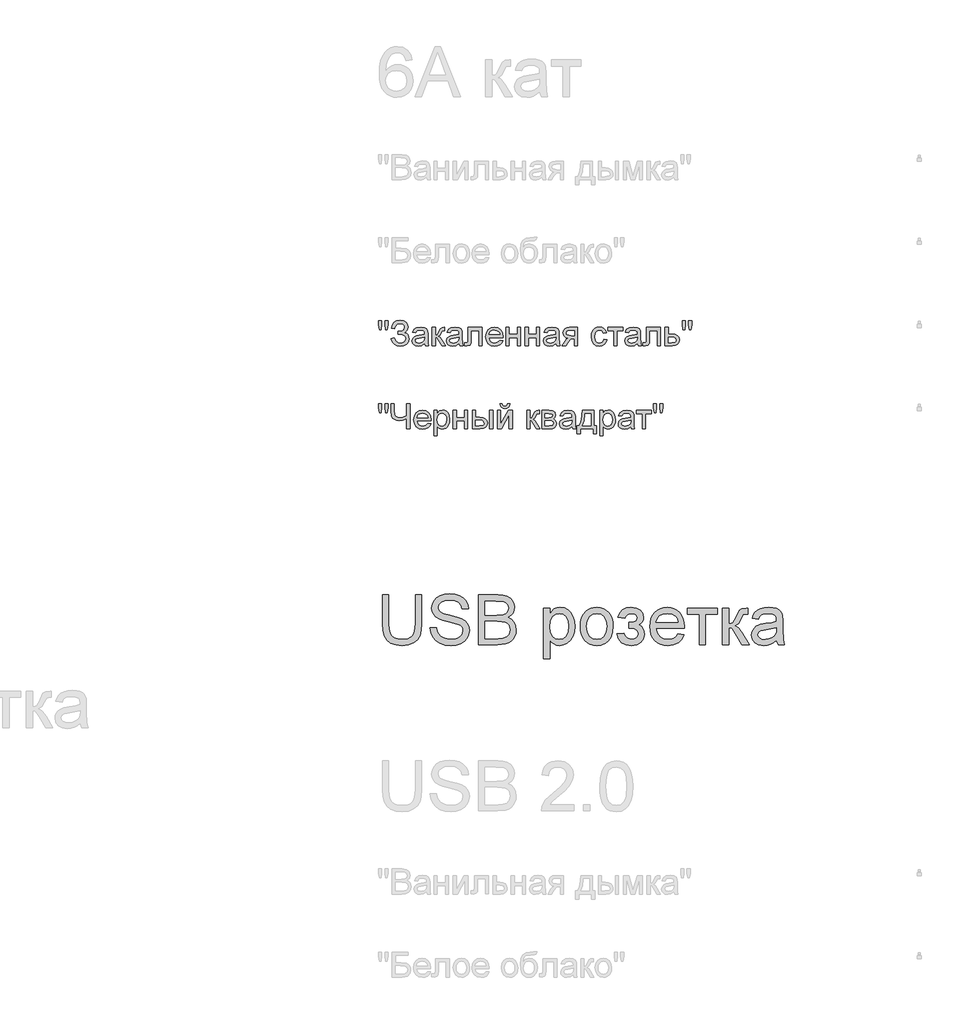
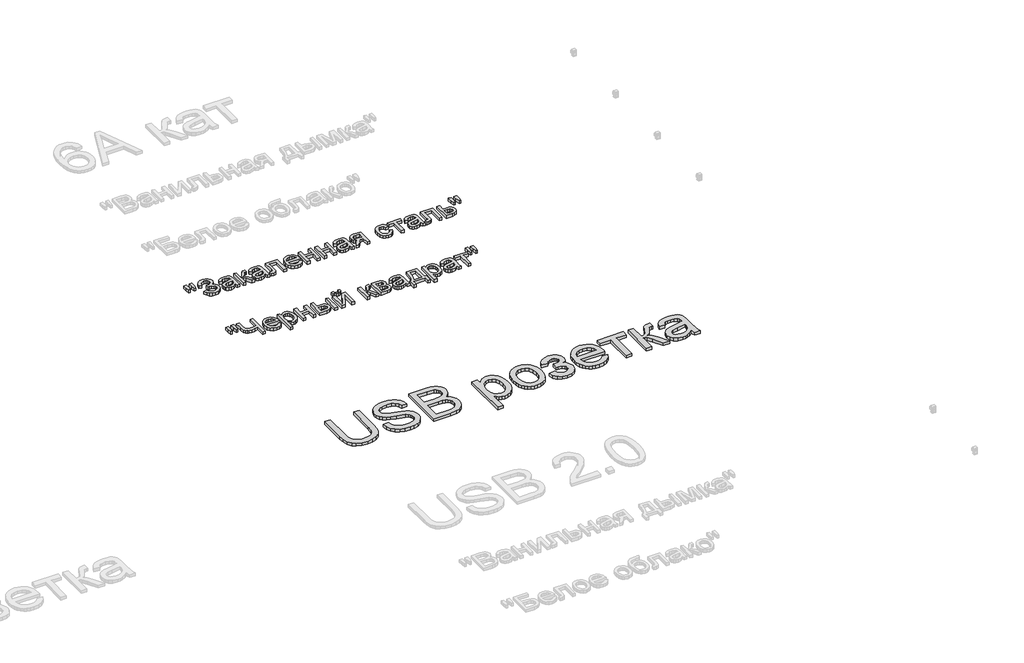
# One storey, part 60 of 168: 3 proxies.
"""IFC4 building model written with IfcOpenShell, lengths in millimetres."""

from ifc_helpers import new_model, si_unit, origin, origin_with_axes, place, context, project, spatial, polyline, outline, extrude, element, save

model = new_model("IFC4")

# Units and contexts
model_context = context("Model", 3, world=origin())
ifc_project = project(units=[si_unit("LENGTHUNIT", "METRE", prefix="MILLI")], contexts=[model_context])

# Site, building, storey
site = spatial("IfcSite", under=ifc_project)
building = spatial("IfcBuilding", under=site)
storey = spatial("IfcBuildingStorey", under=building, Name="Этаж 01", Elevation=0.0)

# Proxies
placement = place(None, origin())
element("IfcBuildingElementProxy", 1, Name="300 мм Arial 2", ObjectType="300 мм Arial 2", at=placement, inside=storey, context=model_context, shape_type="SweptSolid", body=[
    extrude(outline(polyline([(60396.8678623, -45765.4933673), (60434.5389786, -45765.4933673), (60434.5389786, -45939.3543982), (60431.9821987, -45980.069738), (60424.3118591, -46011.4224811), (60409.9828554, -46035.6107222), (60387.4500832, -46054.8325565), (60356.6583602, -46067.3865296), (60317.5525041, -46071.5711873), (60279.3019737, -46067.9291555), (60248.7217828, -46057.0030603), (60225.8027345, -46039.1699805), (60210.5356317, -46014.8069954), (60201.9547842, -45982.1298772), (60199.0945017, -45939.3543982), (60199.0945017, -45765.4933673), (60236.765618, -45765.4933673), (60236.765618, -45938.030023), (60238.623422, -45971.8843636), (60244.1968343, -45995.4564025), (60254.295195, -46011.781166), (60269.7278447, -46023.8936807), (60289.8509899, -46031.3984734), (60314.020837, -46033.900071), (60352.3357467, -46028.9520581), (60366.678546, -46022.7670421), (60377.8115749, -46014.1080196), (60386.1487006, -46001.9311256), (60392.1037904, -45985.1924948), (60396.8678623, -45938.030023), (60396.8678623, -45765.4933673)])), origin_with_axes(), (0.0, 0.0, 1.0), 20.0),
    extrude(outline(polyline([(60486.3367635, -45963.2667279), (60524.0078798, -45963.2667279), (60528.3304932, -45984.1716223), (60536.1479856, -46000.9746324), (60548.3432738, -46014.3103547), (60565.7992744, -46024.8133857), (60587.1364302, -46031.6283996), (60610.9751835, -46033.900071), (60631.9628513, -46032.1802226), (60650.3385569, -46027.0206777), (60665.2285807, -46018.8536974), (60675.7592028, -46008.1115431), (60682.0223938, -45995.7782992), (60684.1101241, -45982.83805), (60682.5466256, -45970.2288947), (60677.8561302, -45959.3303905), (60668.3279865, -45950.0321731), (60652.2515433, -45942.2238778), (60597.4003378, -45927.8396918), (60561.3938876, -45918.3207451), (60538.3552776, -45909.261651), (60519.6024929, -45896.5881163), (60506.3127558, -45881.229043), (60498.3940959, -45863.5155249), (60495.7545426, -45843.7786559), (60499.0194953, -45821.7149332), (60508.8143534, -45801.1411326), (60524.8815995, -45783.703526), (60546.9637163, -45771.0483854), (60573.469614, -45763.3504547), (60602.8082032, -45760.7844777), (60634.5932075, -45763.4700163), (60662.4050864, -45771.526632), (60685.2505583, -45784.7887779), (60702.1363419, -45803.0909072), (60712.8233138, -45825.2925856), (60717.0723509, -45850.253379), (60679.4012346, -45850.253379), (60672.4850531, -45827.7757891), (60658.0640788, -45811.5521931), (60635.5313066, -45801.7297438), (60604.2797311, -45798.4555941), (60572.2923917, -45801.6929556), (60550.3482307, -45811.4050403), (60537.6563018, -45825.6972558), (60533.4256589, -45842.6750099), (60536.4238971, -45857.1511664), (60545.4186119, -45868.7946315), (60566.6821912, -45879.205692), (60606.9284815, -45889.8374817), (60648.4623588, -45899.9358424), (60673.588699, -45908.7466162), (60695.0638105, -45922.4134323), (60710.0458048, -45939.2808218), (60718.8473815, -45959.1648436), (60721.7812404, -45981.8815568), (60718.4059231, -46005.1041078), (60708.2799712, -46026.9471013), (60691.8172519, -46045.7458712), (60669.4316325, -46059.8357516), (60642.5118675, -46068.6373284), (60612.4467114, -46071.5711873), (60575.5389503, -46068.4074021), (60545.1610945, -46058.9160466), (60520.9636563, -46043.0603326), (60502.5971477, -46020.8034719), (60490.8065297, -45993.6905689), (60486.3367635, -45963.2667279)])), origin_with_axes(), (0.0, 0.0, 1.0), 20.0),
    extrude(outline(polyline([(60778.2879149, -46066.8622977), (60778.2879149, -45765.4933673), (60893.2878266, -45765.4933673), (60924.9164811, -45767.7098563), (60949.61056, -45774.3593234), (60968.5380887, -45785.6073154), (60982.8670924, -45801.6193792), (60991.8893983, -45820.4549374), (60994.8968336, -45840.1734123), (60992.3676449, -45858.3191917), (60984.7800788, -45875.3797192), (60972.0789529, -45890.3065312), (60954.209085, -45902.0511639), (60975.5554377, -45913.1979883), (60991.3283783, -45930.1573483), (61001.0680541, -45951.8072037), (61004.3146127, -45977.0255145), (61002.0981237, -45998.0407735), (60995.4486566, -46017.5293222), (60985.5250398, -46034.1024061), (60973.4861015, -46046.3712706), (60958.7432305, -46055.2556208), (60940.7078157, -46061.6751616), (60892.4049098, -46066.8622977), (60778.2879149, -46066.8622977)]), holes=[polyline([(60815.9590312, -45887.9244953), (60884.7529643, -45887.9244953), (60924.9256781, -45884.6871337), (60938.9879674, -45879.1045244), (60949.0955252, -45870.7444061), (60955.1931693, -45859.7355374), (60957.2257173, -45846.206677), (60955.331125, -45833.0732898), (60949.6473482, -45821.6321597), (60940.4319042, -45812.7018243), (60927.9423105, -45807.1008209), (60879.5290399, -45803.1644836), (60815.9590312, -45803.1644836), (60815.9590312, -45887.9244953)]), polyline([(60815.9590312, -46029.1911814), (60893.2142502, -46029.1911814), (60921.1732818, -46027.7196534), (60944.8280941, -46019.515885), (60960.4998671, -46002.7772542), (60965.1075891, -45990.949848), (60966.6434964, -45977.3933965), (60964.8408746, -45961.6480471), (60959.4330093, -45948.1099897), (60949.9876391, -45937.5241853), (60936.0725026, -45930.6355949), (60916.3632247, -45926.8556074), (60889.5354302, -45925.5956116), (60815.9590312, -45925.5956116), (60815.9590312, -46029.1911814)])]), origin_with_axes(), (0.0, 0.0, 1.0), 20.0),
    extrude(outline(polyline([(61169.1257465, -46151.6223094), (61169.1257465, -45845.5444894), (61206.7968628, -45845.5444894), (61206.7968628, -45882.4798418), (61219.0841215, -45864.2604859), (61232.8429081, -45851.2466604), (61248.8825631, -45843.438365), (61268.0124268, -45840.8355999), (61293.488255, -45844.4776316), (61315.7635098, -45855.4037269), (61333.9000922, -45872.9516981), (61346.959903, -45896.4593576), (61354.8509718, -45924.2160541), (61357.4813281, -45954.5111364), (61354.510681, -45986.7284021), (61345.5987396, -46015.5427594), (61331.0306126, -46039.4918773), (61311.0914085, -46057.1134249), (61287.8688575, -46067.9567467), (61263.4506901, -46071.5711873), (61246.1326452, -46069.1523632), (61230.6724043, -46061.8958908), (61217.4378496, -46050.9422044), (61206.7968628, -46037.4317381), (61206.7968628, -46151.6223094), (61169.1257465, -46151.6223094)]), holes=[polyline([(61206.7968628, -45957.9692272), (61210.8711559, -45991.7407943), (61223.0940352, -46015.3588184), (61241.12945, -46029.2647578), (61262.6413497, -46033.900071), (61284.5027373, -46029.0992109), (61302.9980046, -46014.6966308), (61315.60716, -45990.214084), (61319.8102118, -45955.173324), (61315.7083275, -45921.5856978), (61303.4026748, -45897.63658), (61285.3948511, -45883.2891821), (61264.1864541, -45878.5067162), (61242.8952836, -45883.5926848), (61224.1976812, -45898.8505905), (61211.1470674, -45923.8021869), (61206.7968628, -45957.9692272)])]), origin_with_axes(), (0.0, 0.0, 1.0), 20.0),
    extrude(outline(polyline([(61390.4435548, -45956.2033936), (61392.4807014, -45927.5407876), (61398.592141, -45902.8421102), (61408.7778738, -45882.1073612), (61423.0378996, -45865.3365408), (61437.3944945, -45854.6173791), (61453.2410114, -45846.9608351), (61470.5774504, -45842.3669087), (61489.4038115, -45840.8355999), (61510.186845, -45842.7003018), (61528.9787172, -45848.2944073), (61545.779428, -45857.6179167), (61560.5889776, -45870.6708297), (61572.6762004, -45887.0116881), (61581.309931, -45906.1990334), (61586.4901693, -45928.2328656), (61588.2169154, -45953.1131848), (61585.1634949, -45991.1705772), (61576.0032332, -46020.1412843), (61561.0028449, -46041.837125), (61540.4290443, -46058.069918), (61515.9924827, -46068.19587), (61489.4038115, -46071.5711873), (61468.3172754, -46069.7133832), (61449.3506593, -46064.139971), (61432.5039632, -46054.8509506), (61417.7771871, -46041.8463221), (61405.818723, -46025.3468146), (61397.2769629, -46005.5731573), (61392.1519069, -45982.5253503), (61390.4435548, -45956.2033936)]), holes=[polyline([(61428.1146711, -45956.1298172), (61432.4740728, -45990.2232811), (61445.5522777, -46014.5126898), (61465.2339645, -46029.0532257), (61489.4038115, -46033.900071), (61513.463294, -46029.0256345), (61533.1081926, -46014.4023252), (61546.1863975, -45989.7910197), (61550.5457991, -45954.9525948), (61546.1588063, -45921.8524123), (61532.997828, -45897.8940973), (61513.3253383, -45883.3535615), (61489.4038115, -45878.5067162), (61465.2339645, -45883.3351674), (61445.5522777, -45897.820521), (61432.4740728, -45922.0547474), (61428.1146711, -45956.1298172)])]), origin_with_axes(), (0.0, 0.0, 1.0), 20.0),
    extrude(outline(polyline([(61682.3947062, -45967.9756174), (61682.3947062, -45930.3045011), (61712.1195714, -45928.8329731), (61727.1291568, -45920.9970866), (61732.4266576, -45913.6486438), (61734.1924911, -45904.6263379), (61731.8288493, -45893.9117748), (61724.7379239, -45885.6068387), (61713.9129961, -45880.2817468), (61700.3473476, -45878.5067162), (61686.6345462, -45880.2725498), (61675.1474309, -45885.5700505), (61665.8860017, -45894.3992184), (61658.8502585, -45906.7600534), (61616.4702527, -45902.0511639), (61627.7090476, -45875.2693546), (61644.7971663, -45856.1394909), (61667.7346087, -45844.6615726), (61696.5213748, -45840.8355999), (61728.0120736, -45845.4985042), (61751.8508269, -45859.4872171), (61766.8604123, -45879.950653), (61771.8636074, -45904.0377267), (61770.0839783, -45916.3985617), (61764.7450908, -45927.4350216), (61755.8469451, -45937.1471062), (61743.389541, -45945.5348157), (61757.9300769, -45956.0010585), (61768.2951521, -45969.005687), (61774.5031608, -45984.5854895), (61776.572497, -46002.7772542), (61771.3209815, -46030.5063596), (61755.5664351, -46052.4781117), (61730.3757154, -46066.7979184), (61696.8156804, -46071.5711873), (61663.9914094, -46067.1566033), (61638.8742662, -46053.9128515), (61621.4642508, -46031.8399318), (61611.7613631, -46000.9378442), (61654.141369, -45996.2289547), (61660.4873334, -46012.1582451), (61671.1375172, -46024.0408335), (61684.8595156, -46031.4352616), (61700.420924, -46033.900071), (61715.5776622, -46031.5364291), (61727.9384972, -46024.4455037), (61736.1606598, -46013.6757583), (61738.9013807, -46000.2756566), (61737.1999264, -45989.662261), (61732.0955638, -45980.4836053), (61717.6010131, -45969.8886038), (61689.7523461, -45967.7548882), (61682.3947062, -45967.9756174)])), origin_with_axes(), (0.0, 0.0, 1.0), 20.0),
    extrude(outline(polyline([(61978.6132887, -46000.9378442), (62015.548641, -46005.6467337), (62002.2405099, -46033.4770067), (61981.0045217, -46054.2807335), (61952.3189231, -46067.2485738), (61916.6619607, -46071.5711873), (61893.2876585, -46069.7064854), (61872.460939, -46064.1123798), (61854.1818024, -46054.7888705), (61838.4502486, -46041.7359575), (61825.7997065, -46025.3169242), (61816.7636049, -46005.8950541), (61811.341944, -45983.4703472), (61809.5347237, -45958.0428036), (61811.3603381, -45931.7530365), (61816.8371813, -45908.5810693), (61825.9652534, -45888.526902), (61838.7445542, -45871.5905347), (61854.4347213, -45858.1352507), (61872.2953921, -45848.5243336), (61892.3265668, -45842.7577833), (61914.5282452, -45840.8355999), (61936.0148529, -45842.7531848), (61955.4459201, -45848.5059395), (61972.8214466, -45858.093864), (61988.1414324, -45871.5169583), (62000.647121, -45888.4165374), (62009.5797557, -45908.4339165), (62014.9393365, -45931.5690955), (62016.7258634, -45957.8220744), (62016.5051342, -45967.9756174), (61847.20584, -45967.9756174), (61853.7265484, -45996.1737724), (61868.8740896, -46016.9039228), (61890.7354771, -46029.6510339), (61917.3977247, -46033.900071), (61937.4472935, -46031.9319023), (61954.333077, -46026.0273963), (61968.0550755, -46015.8186709), (61978.6132887, -46000.9378442)]), holes=[polyline([(61847.20584, -45930.3045011), (61979.0547471, -45930.3045011), (61973.9595815, -45910.4020852), (61963.9715853, -45896.165052), (61942.0090302, -45882.9213001), (61914.3810924, -45878.5067162), (61888.9880377, -45882.0291863), (61867.9911728, -45892.5965966), (61853.3954546, -45909.068513), (61847.20584, -45930.3045011)])]), origin_with_axes(), (0.0, 0.0, 1.0), 20.0),
    extrude(outline(polyline([(62035.5614216, -45845.5444894), (62214.499224, -45845.5444894), (62214.499224, -45883.2156057), (62143.865881, -45883.2156057), (62143.865881, -46066.8622977), (62106.1947647, -46066.8622977), (62106.1947647, -45883.2156057), (62035.5614216, -45883.2156057), (62035.5614216, -45845.5444894)])), origin_with_axes(), (0.0, 0.0, 1.0), 20.0),
    extrude(outline(polyline([(62247.4614508, -45845.5444894), (62285.1325671, -45845.5444894), (62285.1325671, -45939.7222802), (62300.4548522, -45938.030023), (62310.369272, -45932.9532515), (62319.1432576, -45919.7094997), (62331.0442401, -45893.5163016), (62348.2243293, -45859.4872171), (62363.3810675, -45848.413969), (62390.9354289, -45845.5444894), (62398.145916, -45845.5444894), (62398.145916, -45883.4363349), (62387.992373, -45883.2156057), (62369.5982732, -45887.1887313), (62356.648827, -45911.9839778), (62341.4553006, -45938.8025752), (62320.154933, -45951.9359624), (62332.0927038, -45957.2380617), (62343.9201099, -45966.5960599), (62367.2438284, -45997.4797534), (62407.5636951, -46066.8622977), (62364.7422309, -46066.8622977), (62325.2317046, -45998.9512814), (62305.3660768, -45970.2196976), (62296.0770565, -45965.0049703), (62285.1325671, -45963.2667279), (62285.1325671, -46066.8622977), (62247.4614508, -46066.8622977), (62247.4614508, -45845.5444894)])), origin_with_axes(), (0.0, 0.0, 1.0), 20.0),
    extrude(outline(polyline([(62572.3748289, -46038.6089605), (62554.3762023, -46054.0416102), (62535.8441468, -46064.139971), (62516.3555981, -46069.7133832), (62495.487492, -46071.5711873), (62464.0059902, -46067.101421), (62440.7834393, -46053.6921223), (62426.4636326, -46033.3298539), (62421.6903637, -46008.0011785), (62423.4929855, -45992.3845878), (62428.9008508, -45978.2027369), (62437.2425751, -45966.0626311), (62447.8467736, -45956.5712756), (62474.2239126, -45944.2104405), (62506.8182574, -45938.5450578), (62545.3355023, -45932.5853695), (62572.1540997, -45925.5956116), (62572.3748289, -45917.2079021), (62569.7812609, -45900.3956949), (62562.0005567, -45889.3960233), (62544.5997383, -45881.229043), (62520.3563148, -45878.5067162), (62497.9155131, -45880.318535), (62482.2437401, -45885.7539915), (62471.5567682, -45895.806367), (62464.0703696, -45911.468943), (62426.3992533, -45906.7600534), (62432.9383557, -45886.1586617), (62442.6964256, -45869.9718539), (62456.583971, -45857.5926248), (62475.5114996, -45848.413969), (62498.6604742, -45842.7301922), (62525.2123572, -45840.8355999), (62550.6789883, -45842.509463), (62570.8665128, -45847.5310522), (62586.0876303, -45855.0818302), (62596.6550406, -45864.3432594), (62603.6631926, -45875.7935865), (62608.2065353, -45889.9110581), (62610.0459452, -45922.8732848), (62610.0459452, -45969.741451), (62611.9589316, -46035.1876579), (62619.4637243, -46066.8622977), (62581.792608, -46066.8622977), (62572.3748289, -46038.6089605)]), holes=[polyline([(62572.3748289, -45963.2667279), (62511.6007233, -45974.8182225), (62479.1903196, -45980.9250637), (62464.511828, -45990.8578775), (62459.36148, -46005.3524281), (62462.1665802, -46016.5544349), (62470.5818809, -46025.7330907), (62484.4234409, -46031.8583259), (62503.5073194, -46033.900071), (62523.7408292, -46031.6467937), (62541.6198941, -46024.8869621), (62556.1144448, -46014.9265571), (62566.1944114, -46003.0715598), (62570.6641777, -45990.8578775), (62572.1540997, -45973.9353058), (62572.3748289, -45963.2667279)])]), origin_with_axes(), (0.0, 0.0, 1.0), 20.0),
])
element("IfcBuildingElementProxy", 2, Name="150", ObjectType="150", at=placement, inside=storey, context=model_context, shape_type="SweptSolid", body=[
    extrude(outline(polyline([(60180.1485789, -44170.3300622), (60175.550054, -44141.2305964), (60175.550054, -44116.1778325), (60194.3856121, -44116.1778325), (60194.3856121, -44141.2305964), (60190.2653338, -44170.3300622), (60180.1485789, -44170.3300622)])), origin_with_axes(), (0.0, 0.0, 1.0), 20.0),
    extrude(outline(polyline([(60217.7093306, -44170.3300622), (60213.2211703, -44141.2305964), (60213.2211703, -44116.1778325), (60232.0567284, -44116.1778325), (60232.0567284, -44141.2305964), (60227.6421445, -44170.3300622), (60217.7093306, -44170.3300622)])), origin_with_axes(), (0.0, 0.0, 1.0), 20.0),
    extrude(outline(polyline([(60250.8922866, -44224.4822919), (60269.7278447, -44219.7734024), (60281.2977335, -44240.172459), (60292.2284273, -44247.829003), (60306.2217387, -44250.3811843), (60320.398991, -44248.4635995), (60331.2193202, -44242.7108448), (60338.0757209, -44234.2449603), (60340.3611878, -44224.1879863), (60337.8641888, -44213.6527657), (60330.3731916, -44205.517975), (60318.5779752, -44200.3170433), (60303.1683181, -44198.5833994), (60293.2722924, -44198.5833994), (60293.2722924, -44179.7478413), (60314.591054, -44178.221131), (60327.6324708, -44170.4220327), (60333.2978535, -44156.1666054), (60331.4124583, -44147.2960508), (60325.7562726, -44139.6670979), (60316.8811195, -44134.4109839), (60305.3388219, -44132.6589459), (60286.1169876, -44138.0484171), (60275.117316, -44152.3406326), (60272.0822895, -44165.6211727), (60253.2467313, -44160.9122831), (60259.0983543, -44140.3108914), (60269.7002536, -44125.5956116), (60285.0524291, -44116.7664437), (60305.1548809, -44113.8233877), (60324.5468605, -44116.8814068), (60339.4598769, -44126.0554641), (60348.965028, -44139.3222085), (60352.1334117, -44154.6582892), (60347.2037929, -44173.3007093), (60332.4149367, -44187.2158458), (60342.8903765, -44192.0396984), (60351.5080123, -44200.1836861), (60357.2745625, -44210.948833), (60359.196746, -44223.6361633), (60355.508729, -44241.4738415), (60344.444678, -44256.1385376), (60327.2921799, -44265.9471913), (60305.3388219, -44269.2167425), (60286.2365493, -44266.4208393), (60270.7947025, -44258.0331298), (60259.0132816, -44244.053614), (60250.8922866, -44224.4822919)])), origin_with_axes(), (0.0, 0.0, 1.0), 20.0),
    extrude(outline(polyline([(60453.3745367, -44252.7356291), (60435.1091957, -44265.5011344), (60414.9308682, -44269.2167425), (60399.1901174, -44266.9818594), (60387.5788419, -44260.27721), (60380.4189386, -44250.0960758), (60378.0323041, -44237.4317381), (60381.6375477, -44222.5325173), (60391.110509, -44211.7167867), (60404.2990786, -44205.5363691), (60420.596251, -44202.7036778), (60453.2641721, -44196.2289547), (60453.3745367, -44192.0350999), (60452.0777527, -44183.6289963), (60448.1874006, -44178.1291605), (60439.4869914, -44174.0456704), (60427.3652797, -44172.684507), (60408.3089923, -44176.3081446), (60399.222307, -44189.1656204), (60380.3867489, -44186.8111756), (60388.5353351, -44168.4170758), (60404.9428721, -44157.6381334), (60429.7933008, -44153.8489488), (60452.6203786, -44157.196675), (60465.5146426, -44165.6027786), (60471.2903899, -44178.3866779), (60472.2100949, -44194.8677913), (60472.2100949, -44218.3018744), (60473.1665881, -44251.0249778), (60476.9189844, -44266.8622977), (60458.0834263, -44266.8622977), (60453.3745367, -44252.7356291)]), holes=[polyline([(60453.3745367, -44215.0645128), (60422.9874839, -44220.8402601), (60406.782282, -44223.8936807), (60399.4430362, -44228.8600876), (60396.8678623, -44236.1073629), (60402.4780627, -44246.2976942), (60418.940782, -44250.3811843), (60437.9970693, -44245.8746299), (60450.284328, -44234.9669288), (60453.2641721, -44220.3988017), (60453.3745367, -44215.0645128)])]), origin_with_axes(), (0.0, 0.0, 1.0), 20.0),
    extrude(outline(polyline([(60498.1089873, -44156.2033936), (60516.9445455, -44156.2033936), (60516.9445455, -44203.292289), (60529.5628979, -44199.9077746), (60539.900382, -44180.1892997), (60548.4904266, -44163.1747574), (60556.0687957, -44157.6381334), (60569.8459764, -44156.2033936), (60573.4512199, -44156.2033936), (60573.4512199, -44175.1493163), (60568.3744484, -44175.0389517), (60559.1773985, -44177.0255145), (60552.7026754, -44189.4231377), (60545.1059122, -44202.8324365), (60534.4557285, -44209.3991301), (60546.3383169, -44216.7291788), (60558.0001762, -44232.1710256), (60578.1601095, -44266.8622977), (60556.7493774, -44266.8622977), (60536.9941142, -44232.9067896), (60527.0613004, -44218.5409977), (60516.9445455, -44215.0645128), (60516.9445455, -44266.8622977), (60498.1089873, -44266.8622977), (60498.1089873, -44156.2033936)])), origin_with_axes(), (0.0, 0.0, 1.0), 20.0),
    extrude(outline(polyline([(60660.5656764, -44252.7356291), (60642.3003353, -44265.5011344), (60622.1220079, -44269.2167425), (60606.381257, -44266.9818594), (60594.7699816, -44260.27721), (60587.6100782, -44250.0960758), (60585.2234438, -44237.4317381), (60588.8286873, -44222.5325173), (60598.3016487, -44211.7167867), (60611.4902183, -44205.5363691), (60627.7873906, -44202.7036778), (60660.4553118, -44196.2289547), (60660.5656764, -44192.0350999), (60659.2688924, -44183.6289963), (60655.3785403, -44178.1291605), (60646.6781311, -44174.0456704), (60634.5564193, -44172.684507), (60615.500132, -44176.3081446), (60606.4134467, -44189.1656204), (60587.5778886, -44186.8111756), (60595.7264748, -44168.4170758), (60612.1340117, -44157.6381334), (60636.9844405, -44153.8489488), (60659.8115183, -44157.196675), (60672.7057822, -44165.6027786), (60678.4815296, -44178.3866779), (60679.4012346, -44194.8677913), (60679.4012346, -44218.3018744), (60680.3577277, -44251.0249778), (60684.1101241, -44266.8622977), (60665.2745659, -44266.8622977), (60660.5656764, -44252.7356291)]), holes=[polyline([(60660.5656764, -44215.0645128), (60630.1786236, -44220.8402601), (60613.9734217, -44223.8936807), (60606.6341759, -44228.8600876), (60604.0590019, -44236.1073629), (60609.6692024, -44246.2976942), (60626.1319217, -44250.3811843), (60645.188209, -44245.8746299), (60657.4754676, -44234.9669288), (60660.4553118, -44220.3988017), (60660.5656764, -44215.0645128)])]), origin_with_axes(), (0.0, 0.0, 1.0), 20.0),
    extrude(outline(polyline([(60714.7179061, -44156.2033936), (60799.4779178, -44156.2033936), (60799.4779178, -44266.7519331), (60780.6423596, -44266.7519331), (60780.6423596, -44175.0389517), (60733.5534643, -44175.0389517), (60733.5534643, -44227.830018), (60732.2842714, -44252.1838061), (60725.3129076, -44262.4661079), (60708.8317942, -44266.8622977), (60693.5279032, -44265.9058045), (60693.5279032, -44248.0267396), (60701.9524009, -44248.0267396), (60710.4688691, -44246.8679113), (60713.8717775, -44243.1890913), (60714.7179061, -44226.7631603), (60714.7179061, -44156.2033936)])), origin_with_axes(), (0.0, 0.0, 1.0), 20.0),
    extrude(outline(polyline([(60905.2072032, -44233.900071), (60923.6748794, -44236.2545157), (60917.0208138, -44250.1696522), (60906.4028197, -44260.5715156), (60892.0600204, -44267.0554358), (60874.2315392, -44269.2167425), (60852.1310283, -44265.4873388), (60835.1256831, -44254.2991276), (60824.2823613, -44236.3786759), (60820.6679207, -44212.4525506), (60824.3191495, -44187.7216835), (60835.2728359, -44169.2264162), (60852.0482549, -44157.6933157), (60873.1646814, -44153.8489488), (60893.6235189, -44157.6841186), (60909.971275, -44169.189628), (60920.6904367, -44187.6481071), (60924.2634906, -44212.342186), (60924.153126, -44217.4189576), (60839.5034789, -44217.4189576), (60842.763833, -44231.518035), (60850.3376036, -44241.8831103), (60861.2682974, -44248.2566658), (60874.5994212, -44250.3811843), (60893.0670974, -44246.444847), (60905.2072032, -44233.900071)]), holes=[polyline([(60839.5034789, -44198.5833994), (60905.4279324, -44198.5833994), (60902.8803496, -44188.6321915), (60897.8863515, -44181.5136749), (60886.9050739, -44174.8917989), (60873.091105, -44172.684507), (60860.3945777, -44174.445742), (60849.8961452, -44179.7294472), (60842.5982861, -44187.9654053), (60839.5034789, -44198.5833994)])]), origin_with_axes(), (0.0, 0.0, 1.0), 20.0),
    extrude(outline(polyline([(60943.0990487, -44156.2033936), (60961.9346069, -44156.2033936), (60961.9346069, -44198.5833994), (61011.377947, -44198.5833994), (61011.377947, -44156.2033936), (61030.2135052, -44156.2033936), (61030.2135052, -44266.8622977), (61011.377947, -44266.8622977), (61011.377947, -44217.4189576), (60961.9346069, -44217.4189576), (60961.9346069, -44266.8622977), (60943.0990487, -44266.8622977), (60943.0990487, -44156.2033936)])), origin_with_axes(), (0.0, 0.0, 1.0), 20.0),
    extrude(outline(polyline([(61058.4668424, -44156.2033936), (61077.3024005, -44156.2033936), (61077.3024005, -44198.5833994), (61126.7457407, -44198.5833994), (61126.7457407, -44156.2033936), (61145.5812988, -44156.2033936), (61145.5812988, -44266.8622977), (61126.7457407, -44266.8622977), (61126.7457407, -44217.4189576), (61077.3024005, -44217.4189576), (61077.3024005, -44266.8622977), (61058.4668424, -44266.8622977), (61058.4668424, -44156.2033936)])), origin_with_axes(), (0.0, 0.0, 1.0), 20.0),
    extrude(outline(polyline([(61244.4679792, -44252.7356291), (61226.2026381, -44265.5011344), (61206.0243107, -44269.2167425), (61190.2835598, -44266.9818594), (61178.6722843, -44260.27721), (61171.512381, -44250.0960758), (61169.1257465, -44237.4317381), (61172.7309901, -44222.5325173), (61182.2039515, -44211.7167867), (61195.392521, -44205.5363691), (61211.6896934, -44202.7036778), (61244.3576146, -44196.2289547), (61244.4679792, -44192.0350999), (61243.1711951, -44183.6289963), (61239.280843, -44178.1291605), (61230.5804338, -44174.0456704), (61218.4587221, -44172.684507), (61199.4024347, -44176.3081446), (61190.3157495, -44189.1656204), (61171.4801913, -44186.8111756), (61179.6287775, -44168.4170758), (61196.0363145, -44157.6381334), (61220.8867433, -44153.8489488), (61243.7138211, -44157.196675), (61256.608085, -44165.6027786), (61262.3838323, -44178.3866779), (61263.3035373, -44194.8677913), (61263.3035373, -44218.3018744), (61264.2600305, -44251.0249778), (61268.0124268, -44266.8622977), (61249.1768687, -44266.8622977), (61244.4679792, -44252.7356291)]), holes=[polyline([(61244.4679792, -44215.0645128), (61214.0809264, -44220.8402601), (61197.8757245, -44223.8936807), (61190.5364787, -44228.8600876), (61187.9613047, -44236.1073629), (61193.5715051, -44246.2976942), (61210.0342244, -44250.3811843), (61229.0905118, -44245.8746299), (61241.3777704, -44234.9669288), (61244.3576146, -44220.3988017), (61244.4679792, -44215.0645128)])]), origin_with_axes(), (0.0, 0.0, 1.0), 20.0),
    extrude(outline(polyline([(61373.9624415, -44156.2033936), (61373.9624415, -44266.8622977), (61355.1268833, -44266.8622977), (61355.1268833, -44224.4822919), (61344.8629756, -44224.4822919), (61330.8834598, -44226.8735249), (61317.7500726, -44242.949968), (61302.7404872, -44266.8622977), (61280.9618731, -44266.8622977), (61299.8710076, -44236.6223977), (61308.2219289, -44225.7698789), (61315.9106626, -44220.9506247), (61303.0347928, -44217.0050903), (61293.9848957, -44209.5094947), (61288.6322127, -44199.5398926), (61286.847985, -44188.172339), (61289.2852032, -44175.278075), (61296.5968579, -44165.0693497), (61308.5254316, -44158.4198826), (61324.8134069, -44156.2033936), (61373.9624415, -44156.2033936)]), holes=[polyline([(61355.1268833, -44175.0389517), (61330.2948486, -44175.0389517), (61317.4695626, -44176.1288021), (61310.1900976, -44179.3983534), (61305.6835431, -44189.6070787), (61307.3436107, -44196.7853762), (61312.3238132, -44201.7655787), (61335.8498668, -44205.6467337), (61355.1268833, -44205.6467337), (61355.1268833, -44175.0389517)])]), origin_with_axes(), (0.0, 0.0, 1.0), 20.0),
    extrude(outline(polyline([(61531.710241, -44226.8367367), (61550.5457991, -44229.1911814), (61545.2942837, -44245.9436078), (61535.4258491, -44258.6033469), (61521.8693976, -44266.5633936), (61505.5538311, -44269.2167425), (61485.518058, -44265.5149299), (61469.8508835, -44254.4094922), (61459.7387272, -44236.387873), (61456.3680084, -44211.9375159), (61457.8073467, -44195.1758924), (61462.1253616, -44180.6491522), (61469.391031, -44168.918315), (61479.6733328, -44160.5444011), (61491.974387, -44155.5228119), (61505.2963137, -44153.8489488), (61521.2118085, -44156.1482113), (61533.9359271, -44163.0459987), (61543.0639991, -44174.174429), (61548.1913544, -44189.1656204), (61529.3557962, -44191.5200651), (61520.6185988, -44177.4117906), (61505.4434665, -44172.684507), (61493.271171, -44175.0113606), (61483.6096701, -44181.9919214), (61477.3050924, -44194.0032686), (61475.2035665, -44211.4224811), (61477.2591072, -44229.0762183), (61483.4257291, -44241.1289522), (61492.9124861, -44248.0681263), (61504.9284317, -44250.3811843), (61514.6819031, -44248.9372475), (61522.678738, -44244.605437), (61528.4958721, -44237.2753883), (61531.710241, -44226.8367367)])), origin_with_axes(), (0.0, 0.0, 1.0), 20.0),
    extrude(outline(polyline([(61557.6091334, -44156.2033936), (61647.0780347, -44156.2033936), (61647.0780347, -44175.0389517), (61611.7613631, -44175.0389517), (61611.7613631, -44266.8622977), (61592.925805, -44266.8622977), (61592.925805, -44175.0389517), (61557.6091334, -44175.0389517), (61557.6091334, -44156.2033936)])), origin_with_axes(), (0.0, 0.0, 1.0), 20.0),
    extrude(outline(polyline([(61734.1924911, -44252.7356291), (61715.9271501, -44265.5011344), (61695.7488226, -44269.2167425), (61680.0080718, -44266.9818594), (61668.3967963, -44260.27721), (61661.236893, -44250.0960758), (61658.8502585, -44237.4317381), (61662.4555021, -44222.5325173), (61671.9284634, -44211.7167867), (61685.117033, -44205.5363691), (61701.4142054, -44202.7036778), (61734.0821265, -44196.2289547), (61734.1924911, -44192.0350999), (61732.8957071, -44183.6289963), (61729.005355, -44178.1291605), (61720.3049458, -44174.0456704), (61708.1832341, -44172.684507), (61689.1269467, -44176.3081446), (61680.0402614, -44189.1656204), (61661.2047033, -44186.8111756), (61669.3532895, -44168.4170758), (61685.7608265, -44157.6381334), (61710.6112552, -44153.8489488), (61733.438333, -44157.196675), (61746.332597, -44165.6027786), (61752.1083443, -44178.3866779), (61753.0280493, -44194.8677913), (61753.0280493, -44218.3018744), (61753.9845425, -44251.0249778), (61757.7369388, -44266.8622977), (61738.9013807, -44266.8622977), (61734.1924911, -44252.7356291)]), holes=[polyline([(61734.1924911, -44215.0645128), (61703.8054383, -44220.8402601), (61687.6002364, -44223.8936807), (61680.2609906, -44228.8600876), (61677.6858167, -44236.1073629), (61683.2960171, -44246.2976942), (61699.7587364, -44250.3811843), (61718.8150237, -44245.8746299), (61731.1022824, -44234.9669288), (61734.0821265, -44220.3988017), (61734.1924911, -44215.0645128)])]), origin_with_axes(), (0.0, 0.0, 1.0), 20.0),
    extrude(outline(polyline([(61788.3447208, -44156.2033936), (61873.1047325, -44156.2033936), (61873.1047325, -44266.7519331), (61854.2691744, -44266.7519331), (61854.2691744, -44175.0389517), (61807.180279, -44175.0389517), (61807.180279, -44227.830018), (61805.9110861, -44252.1838061), (61798.9397223, -44262.4661079), (61782.4586089, -44266.8622977), (61767.1547179, -44265.9058045), (61767.1547179, -44248.0267396), (61775.5792156, -44248.0267396), (61784.0956838, -44246.8679113), (61787.4985922, -44243.1890913), (61788.3447208, -44226.7631603), (61788.3447208, -44156.2033936)])), origin_with_axes(), (0.0, 0.0, 1.0), 20.0),
    extrude(outline(polyline([(61901.3580697, -44156.2033936), (61920.1936279, -44156.2033936), (61920.1936279, -44196.2289547), (61941.8986656, -44196.2289547), (61960.7158297, -44198.587998), (61974.6401632, -44205.6651278), (61983.2486019, -44216.8901272), (61986.1180814, -44231.692779), (61983.6762647, -44245.1710556), (61976.3508145, -44256.5432078), (61963.6542871, -44264.2825252), (61945.099239, -44266.8622977), (61901.3580697, -44266.8622977), (61901.3580697, -44156.2033936)]), holes=[polyline([(61920.1936279, -44248.0267396), (61937.7783873, -44248.0267396), (61960.4951005, -44244.0720081), (61965.5856676, -44239.0090322), (61967.2825233, -44231.7295672), (61962.260934, -44220.1412843), (61954.1905228, -44216.3337057), (61940.0224674, -44215.0645128), (61920.1936279, -44215.0645128), (61920.1936279, -44248.0267396)])]), origin_with_axes(), (0.0, 0.0, 1.0), 20.0),
    extrude(outline(polyline([(62009.5521645, -44170.3300622), (62004.9536396, -44141.2305964), (62004.9536396, -44116.1778325), (62023.7891977, -44116.1778325), (62023.7891977, -44141.2305964), (62019.6689194, -44170.3300622), (62009.5521645, -44170.3300622)])), origin_with_axes(), (0.0, 0.0, 1.0), 20.0),
    extrude(outline(polyline([(62047.1129162, -44170.3300622), (62042.6247559, -44141.2305964), (62042.6247559, -44116.1778325), (62061.460314, -44116.1778325), (62061.460314, -44141.2305964), (62057.0457301, -44170.3300622), (62047.1129162, -44170.3300622)])), origin_with_axes(), (0.0, 0.0, 1.0), 20.0),
])
element("IfcBuildingElementProxy", 3, Name="150", ObjectType="150", at=placement, inside=storey, context=model_context, shape_type="SweptSolid", body=[
    extrude(outline(polyline([(60180.1485789, -44670.3300622), (60175.550054, -44641.2305964), (60175.550054, -44616.1778325), (60194.3856121, -44616.1778325), (60194.3856121, -44641.2305964), (60190.2653338, -44670.3300622), (60180.1485789, -44670.3300622)])), origin_with_axes(), (0.0, 0.0, 1.0), 20.0),
    extrude(outline(polyline([(60217.7093306, -44670.3300622), (60213.2211703, -44641.2305964), (60213.2211703, -44616.1778325), (60232.0567284, -44616.1778325), (60232.0567284, -44641.2305964), (60227.6421445, -44670.3300622), (60217.7093306, -44670.3300622)])), origin_with_axes(), (0.0, 0.0, 1.0), 20.0),
    extrude(outline(polyline([(60363.9056355, -44766.8622977), (60345.0700773, -44766.8622977), (60345.0700773, -44706.5296505), (60320.0908899, -44714.6966308), (60298.4226404, -44717.4189576), (60283.7395502, -44715.556555), (60270.886673, -44709.9693472), (60260.926268, -44701.5172583), (60254.9205944, -44691.0602126), (60250.8922866, -44661.0594359), (60250.8922866, -44616.1778325), (60269.7278447, -44616.1778325), (60269.7278447, -44658.5210502), (60271.990319, -44678.8879171), (60278.7777418, -44690.8394834), (60288.7381468, -44696.6474204), (60300.5195677, -44698.5833994), (60322.2521966, -44696.2473488), (60345.0700773, -44689.2391968), (60345.0700773, -44616.1778325), (60363.9056355, -44616.1778325), (60363.9056355, -44766.8622977)])), origin_with_axes(), (0.0, 0.0, 1.0), 20.0),
    extrude(outline(polyline([(60471.9893657, -44733.900071), (60490.4570418, -44736.2545157), (60483.8029762, -44750.1696522), (60473.1849822, -44760.5715156), (60458.8421829, -44767.0554358), (60441.0137017, -44769.2167425), (60418.9131908, -44765.4873388), (60401.9078456, -44754.2991276), (60391.0645238, -44736.3786759), (60387.4500832, -44712.4525506), (60391.101312, -44687.7216835), (60402.0549984, -44669.2264162), (60418.8304174, -44657.6933157), (60439.9468439, -44653.8489488), (60460.4056814, -44657.6841186), (60476.7534375, -44669.189628), (60487.4725992, -44687.6481071), (60491.045653, -44712.342186), (60490.9352884, -44717.4189576), (60406.2856413, -44717.4189576), (60409.5459955, -44731.518035), (60417.1197661, -44741.8831103), (60428.0504599, -44748.2566658), (60441.3815837, -44750.3811843), (60459.8492598, -44746.444847), (60471.9893657, -44733.900071)]), holes=[polyline([(60406.2856413, -44698.5833994), (60472.2100949, -44698.5833994), (60469.6625121, -44688.6321915), (60464.668514, -44681.5136749), (60453.6872364, -44674.8917989), (60439.8732675, -44672.684507), (60427.1767401, -44674.445742), (60416.6783077, -44679.7294472), (60409.3804486, -44687.9654053), (60406.2856413, -44698.5833994)])]), origin_with_axes(), (0.0, 0.0, 1.0), 20.0),
    extrude(outline(polyline([(60509.8812112, -44809.2423036), (60509.8812112, -44656.2033936), (60528.7167693, -44656.2033936), (60528.7167693, -44674.6710697), (60541.739792, -44659.054479), (60559.3245513, -44653.8489488), (60572.0624654, -44655.6699647), (60583.2000928, -44661.1330123), (60592.268384, -44669.9069979), (60598.7982894, -44681.6608277), (60604.0590019, -44710.6867171), (60602.5736784, -44726.7953499), (60598.1177077, -44741.2025286), (60590.8336442, -44753.1770875), (60580.8640422, -44761.9878613), (60569.2527667, -44767.4095222), (60557.043683, -44769.2167425), (60540.6545401, -44764.3790943), (60528.7167693, -44752.1470179), (60528.7167693, -44809.2423036), (60509.8812112, -44809.2423036)]), holes=[polyline([(60528.7167693, -44712.4157624), (60530.7539159, -44729.301546), (60536.8653555, -44741.1105581), (60545.8830629, -44748.0635278), (60556.6390128, -44750.3811843), (60567.5697066, -44747.9807543), (60576.8173402, -44740.7794643), (60583.1219179, -44728.5381909), (60585.2234438, -44711.0178109), (60583.1725017, -44694.2239978), (60577.0196753, -44682.2494388), (60568.0157635, -44675.0757399), (60557.411565, -44672.684507), (60546.7659797, -44675.2274913), (60537.4171785, -44682.8564441), (60530.8918716, -44695.3322423), (60528.7167693, -44712.4157624)])]), origin_with_axes(), (0.0, 0.0, 1.0), 20.0),
    extrude(outline(polyline([(60625.2490049, -44656.2033936), (60644.084563, -44656.2033936), (60644.084563, -44698.5833994), (60693.5279032, -44698.5833994), (60693.5279032, -44656.2033936), (60712.3634613, -44656.2033936), (60712.3634613, -44766.8622977), (60693.5279032, -44766.8622977), (60693.5279032, -44717.4189576), (60644.084563, -44717.4189576), (60644.084563, -44766.8622977), (60625.2490049, -44766.8622977), (60625.2490049, -44656.2033936)])), origin_with_axes(), (0.0, 0.0, 1.0), 20.0),
    extrude(outline(polyline([(60844.2123684, -44656.2033936), (60863.0479266, -44656.2033936), (60863.0479266, -44766.8622977), (60844.2123684, -44766.8622977), (60844.2123684, -44656.2033936)])), origin_with_axes(), (0.0, 0.0, 1.0), 20.0),
    extrude(outline(polyline([(60740.6167986, -44656.2033936), (60759.4523567, -44656.2033936), (60759.4523567, -44696.2289547), (60782.739287, -44696.2289547), (60802.8670307, -44698.587998), (60817.780047, -44705.6651278), (60827.0092866, -44716.8901272), (60830.0856998, -44731.692779), (60827.5059273, -44745.1710556), (60819.7666098, -44756.5432078), (60806.3619096, -44764.2825252), (60786.785989, -44766.8622977), (60740.6167986, -44766.8622977), (60740.6167986, -44656.2033936)]), holes=[polyline([(60759.4523567, -44748.0267396), (60778.8029497, -44748.0267396), (60803.7821371, -44744.0720081), (60809.3831405, -44739.0090322), (60811.2501416, -44731.7295672), (60805.7135176, -44720.1412843), (60796.8337659, -44716.3337057), (60781.267759, -44715.0645128), (60759.4523567, -44715.0645128), (60759.4523567, -44748.0267396)])]), origin_with_axes(), (0.0, 0.0, 1.0), 20.0),
    extrude(outline(polyline([(60891.3012638, -44656.2033936), (60910.1368219, -44656.2033936), (60910.1368219, -44740.5955233), (60956.4163769, -44656.2033936), (60980.770165, -44656.2033936), (60980.770165, -44766.8622977), (60961.9346069, -44766.8622977), (60961.9346069, -44682.9852028), (60915.9493575, -44766.8622977), (60891.3012638, -44766.8622977), (60891.3012638, -44656.2033936)])), origin_with_axes(), (0.0, 0.0, 1.0), 20.0),
    extrude(outline(polyline([(60952.5168278, -44616.1778325), (60966.6434964, -44616.1778325), (60963.6038714, -44628.2397634), (60957.5016288, -44637.1287121), (60948.6126801, -44642.6055553), (60937.2129368, -44644.4311697), (60924.8429047, -44642.6193509), (60915.2503817, -44637.1838944), (60908.6928851, -44628.3087413), (60905.4279324, -44616.1778325), (60919.554601, -44616.1778325), (60924.8521017, -44626.7912281), (60935.5206796, -44630.3045011), (60947.219327, -44626.9015927), (60952.5168278, -44616.1778325)])), origin_with_axes(), (0.0, 0.0, 1.0), 20.0),
    extrude(outline(polyline([(61067.8846215, -44656.2033936), (61086.7201796, -44656.2033936), (61086.7201796, -44703.292289), (61099.3385321, -44699.9077746), (61109.6760161, -44680.1892997), (61118.2660607, -44663.1747574), (61125.8444298, -44657.6381334), (61139.6216105, -44656.2033936), (61143.2268541, -44656.2033936), (61143.2268541, -44675.1493163), (61138.1500825, -44675.0389517), (61128.9530327, -44677.0255145), (61122.4783096, -44689.4231377), (61114.8815464, -44702.8324365), (61104.2313626, -44709.3991301), (61116.113951, -44716.7291788), (61127.7758103, -44732.1710256), (61147.9357436, -44766.8622977), (61126.5250115, -44766.8622977), (61106.7697484, -44732.9067896), (61096.8369345, -44718.5409977), (61086.7201796, -44715.0645128), (61086.7201796, -44766.8622977), (61067.8846215, -44766.8622977), (61067.8846215, -44656.2033936)])), origin_with_axes(), (0.0, 0.0, 1.0), 20.0),
    extrude(outline(polyline([(61159.7079675, -44656.2033936), (61201.2050565, -44656.2033936), (61223.9585579, -44658.7233853), (61236.7608514, -44667.9572233), (61242.1135344, -44684.0520606), (61238.8761728, -44697.1302655), (61229.1273, -44706.4560741), (61241.7824406, -44716.6647995), (61246.8224239, -44734.4151058), (61243.6310476, -44748.7717006), (61236.0434815, -44758.8792584), (61224.0321343, -44764.8665379), (61207.569415, -44766.8622977), (61159.7079675, -44766.8622977), (61159.7079675, -44656.2033936)]), holes=[polyline([(61178.5435256, -44698.5833994), (61197.1583546, -44698.5833994), (61212.5174279, -44697.6269062), (61219.9854324, -44693.8009335), (61223.2779762, -44686.884752), (61221.8340394, -44681.2653545), (61217.5022289, -44677.6509139), (61197.7469658, -44675.0389517), (61178.5435256, -44675.0389517), (61178.5435256, -44698.5833994)]), polyline([(61178.5435256, -44748.0267396), (61201.6465149, -44748.0267396), (61222.137542, -44744.6238311), (61226.377382, -44739.9839195), (61227.9868658, -44732.8700014), (61224.7678983, -44723.8017102), (61216.3801888, -44718.5226036), (61199.8071049, -44717.4189576), (61178.5435256, -44717.4189576), (61178.5435256, -44748.0267396)])]), origin_with_axes(), (0.0, 0.0, 1.0), 20.0),
    extrude(outline(polyline([(61341.0002147, -44752.7356291), (61322.7348736, -44765.5011344), (61302.5565462, -44769.2167425), (61286.8157953, -44766.9818594), (61275.2045198, -44760.27721), (61268.0446165, -44750.0960758), (61265.6579821, -44737.4317381), (61269.2632256, -44722.5325173), (61278.736187, -44711.7167867), (61291.9247565, -44705.5363691), (61308.2219289, -44702.7036778), (61340.8898501, -44696.2289547), (61341.0002147, -44692.0350999), (61339.7034307, -44683.6289963), (61335.8130786, -44678.1291605), (61327.1126694, -44674.0456704), (61314.9909576, -44672.684507), (61295.9346703, -44676.3081446), (61286.847985, -44689.1656204), (61268.0124268, -44686.8111756), (61276.161013, -44668.4170758), (61292.56855, -44657.6381334), (61317.4189788, -44653.8489488), (61340.2460566, -44657.196675), (61353.1403205, -44665.6027786), (61358.9160679, -44678.3866779), (61359.8357728, -44694.8677913), (61359.8357728, -44718.3018744), (61360.792266, -44751.0249778), (61364.5446624, -44766.8622977), (61345.7091042, -44766.8622977), (61341.0002147, -44752.7356291)]), holes=[polyline([(61341.0002147, -44715.0645128), (61310.6131619, -44720.8402601), (61294.40796, -44723.8936807), (61287.0687142, -44728.8600876), (61284.4935402, -44736.1073629), (61290.1037407, -44746.2976942), (61306.5664599, -44750.3811843), (61325.6227473, -44745.8746299), (61337.9100059, -44734.9669288), (61340.8898501, -44720.3988017), (61341.0002147, -44715.0645128)])]), origin_with_axes(), (0.0, 0.0, 1.0), 20.0),
    extrude(outline(polyline([(61402.2157787, -44656.2033936), (61472.8491218, -44656.2033936), (61472.8491218, -44748.0267396), (61486.9757904, -44748.0267396), (61486.9757904, -44797.4700797), (61468.1402322, -44797.4700797), (61468.1402322, -44766.8622977), (61390.4435548, -44766.8622977), (61390.4435548, -44797.4700797), (61371.6079967, -44797.4700797), (61371.6079967, -44748.0267396), (61383.3802205, -44748.0267396), (61391.9380754, -44732.5619002), (61397.9299534, -44712.1030628), (61402.2157787, -44656.2033936)]), holes=[polyline([(61418.6968921, -44675.0389517), (61414.2823081, -44717.9523865), (61404.5702235, -44748.0267396), (61454.0135636, -44748.0267396), (61454.0135636, -44675.0389517), (61418.6968921, -44675.0389517)])]), origin_with_axes(), (0.0, 0.0, 1.0), 20.0),
    extrude(outline(polyline([(61508.1657933, -44809.2423036), (61508.1657933, -44656.2033936), (61527.0013514, -44656.2033936), (61527.0013514, -44674.6710697), (61540.0243741, -44659.054479), (61557.6091334, -44653.8489488), (61570.3470475, -44655.6699647), (61581.4846749, -44661.1330123), (61590.5529661, -44669.9069979), (61597.0828715, -44681.6608277), (61602.3435841, -44710.6867171), (61600.8582605, -44726.7953499), (61596.4022898, -44741.2025286), (61589.1182263, -44753.1770875), (61579.1486243, -44761.9878613), (61567.5373488, -44767.4095222), (61555.3282651, -44769.2167425), (61538.9391222, -44764.3790943), (61527.0013514, -44752.1470179), (61527.0013514, -44809.2423036), (61508.1657933, -44809.2423036)]), holes=[polyline([(61527.0013514, -44712.4157624), (61529.038498, -44729.301546), (61535.1499376, -44741.1105581), (61544.167645, -44748.0635278), (61554.9235949, -44750.3811843), (61565.8542887, -44747.9807543), (61575.1019223, -44740.7794643), (61581.4065, -44728.5381909), (61583.5080259, -44711.0178109), (61581.4570838, -44694.2239978), (61575.3042574, -44682.2494388), (61566.3003456, -44675.0757399), (61555.6961471, -44672.684507), (61545.0505618, -44675.2274913), (61535.7017606, -44682.8564441), (61529.1764537, -44695.3322423), (61527.0013514, -44712.4157624)])]), origin_with_axes(), (0.0, 0.0, 1.0), 20.0),
    extrude(outline(polyline([(61694.1669301, -44752.7356291), (61675.901589, -44765.5011344), (61655.7232616, -44769.2167425), (61639.9825107, -44766.9818594), (61628.3712352, -44760.27721), (61621.2113319, -44750.0960758), (61618.8246974, -44737.4317381), (61622.429941, -44722.5325173), (61631.9029024, -44711.7167867), (61645.0914719, -44705.5363691), (61661.3886443, -44702.7036778), (61694.0565655, -44696.2289547), (61694.1669301, -44692.0350999), (61692.870146, -44683.6289963), (61688.9797939, -44678.1291605), (61680.2793847, -44674.0456704), (61668.157673, -44672.684507), (61649.1013856, -44676.3081446), (61640.0147004, -44689.1656204), (61621.1791422, -44686.8111756), (61629.3277284, -44668.4170758), (61645.7352654, -44657.6381334), (61670.5856942, -44653.8489488), (61693.412772, -44657.196675), (61706.3070359, -44665.6027786), (61712.0827832, -44678.3866779), (61713.0024882, -44694.8677913), (61713.0024882, -44718.3018744), (61713.9589814, -44751.0249778), (61717.7113777, -44766.8622977), (61698.8758196, -44766.8622977), (61694.1669301, -44752.7356291)]), holes=[polyline([(61694.1669301, -44715.0645128), (61663.7798773, -44720.8402601), (61647.5746754, -44723.8936807), (61640.2354296, -44728.8600876), (61637.6602556, -44736.1073629), (61643.270456, -44746.2976942), (61659.7331753, -44750.3811843), (61678.7894627, -44745.8746299), (61691.0767213, -44734.9669288), (61694.0565655, -44720.3988017), (61694.1669301, -44715.0645128)])]), origin_with_axes(), (0.0, 0.0, 1.0), 20.0),
    extrude(outline(polyline([(61729.4836016, -44656.2033936), (61818.9525028, -44656.2033936), (61818.9525028, -44675.0389517), (61783.6358313, -44675.0389517), (61783.6358313, -44766.8622977), (61764.8002731, -44766.8622977), (61764.8002731, -44675.0389517), (61729.4836016, -44675.0389517), (61729.4836016, -44656.2033936)])), origin_with_axes(), (0.0, 0.0, 1.0), 20.0),
    extrude(outline(polyline([(61835.3232516, -44670.3300622), (61830.7247267, -44641.2305964), (61830.7247267, -44616.1778325), (61849.5602848, -44616.1778325), (61849.5602848, -44641.2305964), (61845.4400065, -44670.3300622), (61835.3232516, -44670.3300622)])), origin_with_axes(), (0.0, 0.0, 1.0), 20.0),
    extrude(outline(polyline([(61872.8840033, -44670.3300622), (61868.395843, -44641.2305964), (61868.395843, -44616.1778325), (61887.2314011, -44616.1778325), (61887.2314011, -44641.2305964), (61882.8168172, -44670.3300622), (61872.8840033, -44670.3300622)])), origin_with_axes(), (0.0, 0.0, 1.0), 20.0),
])

save(model, "model.ifc")
